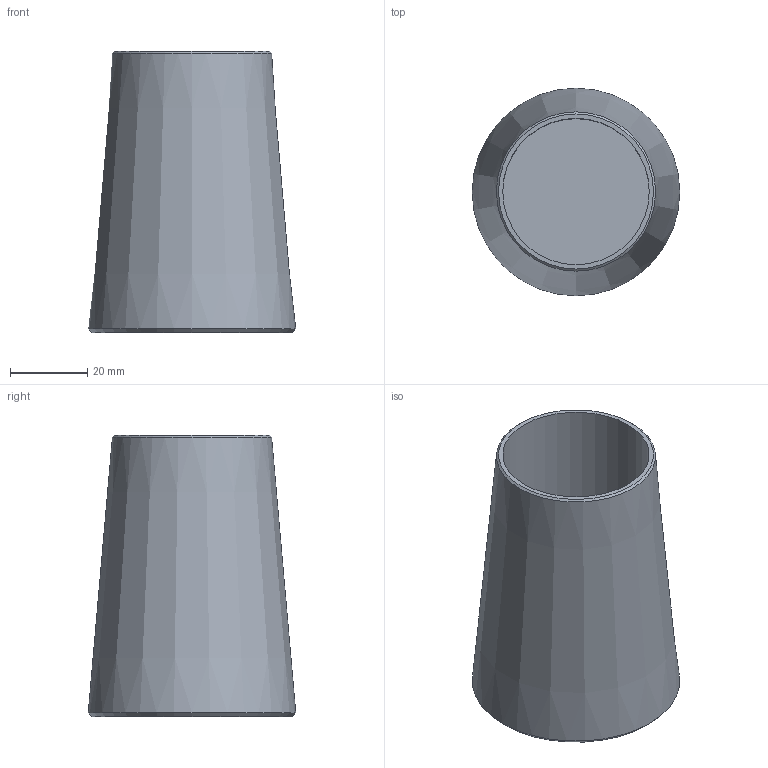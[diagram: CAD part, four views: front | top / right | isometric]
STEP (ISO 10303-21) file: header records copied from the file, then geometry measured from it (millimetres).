
FILE_DESCRIPTION(/* description */ (''),/* implementation_level */ '2;1');
FILE_NAME(/* name */ 'C:\Vault_WS\Designs\SB\01-PX\Verzinkt\ZSS\520 - Kontermutter\520-036-KMU.stp',/* time_stamp */ '2020-06-18T12:27:27+02:00',/* author */ ('schwarz'),/* organization */ (''),/* preprocessor_version */ 'ST-DEVELOPER v16.1',/* originating_system */ 'Autodesk Inventor 2016',/* authorisation */ '');
FILE_SCHEMA (('AUTOMOTIVE_DESIGN { 1 0 10303 214 3 1 1 }'));
Length unit declared in the file: millimetre
Products named in the file (1): Kontermutter 520 036 Kunde
Bounding box: 53.83 x 53.83 x 73 mm (x, y, z)
Volume: 68281.8 mm3; surface area: 21006.6 mm2
Topology: 1 solids, 1 shells, 7 faces, 10 edges, 6 vertices
Faces by surface type: cone 3, plane 3, cylinder 1
Full cylindrical faces by diameter (mm): 38 x1
Entity records: 158 total; most frequent: DIRECTION 28, CARTESIAN_POINT 20, AXIS2_PLACEMENT_3D 14, EDGE_LOOP 12, ORIENTED_EDGE 12, FACE_OUTER_BOUND 7, ADVANCED_FACE 7, CIRCLE 6
